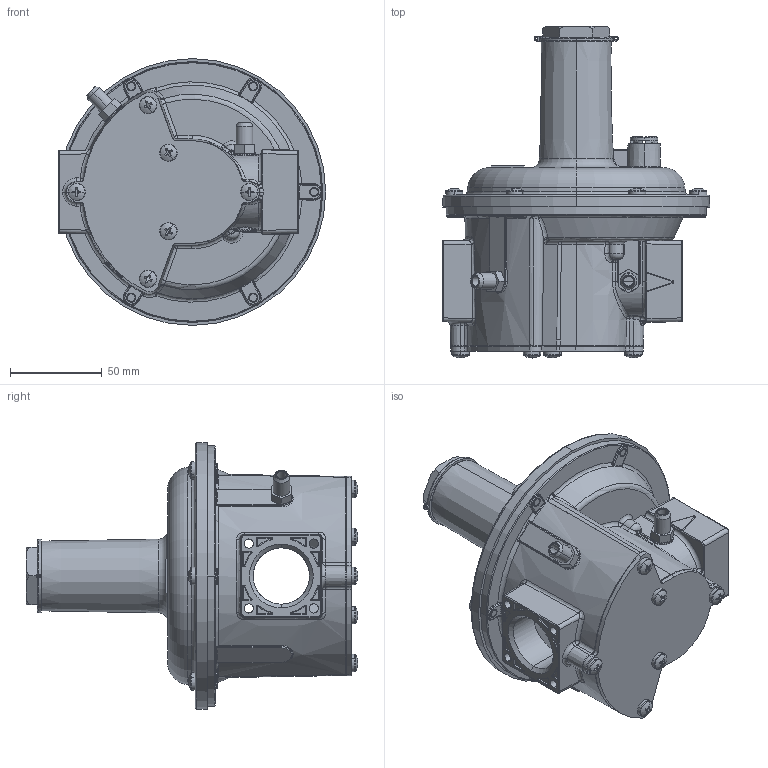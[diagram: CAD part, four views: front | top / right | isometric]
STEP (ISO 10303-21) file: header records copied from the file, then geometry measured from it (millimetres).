
FILE_DESCRIPTION (( 'STEP AP203' ), '1' );
FILE_NAME ('009.0222.101-4.STEP', '2014-01-13T15:05:37', ( 'Adminwatts' ), ( 'Microsoft' ), 'SwSTEP 2.0', 'SolidWorks 2012', '' );
FILE_SCHEMA (( 'CONFIG_CONTROL_DESIGN' ));
Length unit declared in the file: millimetre
Products named in the file (1): 009.0222.101-4
Bounding box: 145.72 x 180.88 x 145.44 mm (x, y, z)
Surface area: 99679 mm2 (no closed solid volume)
Topology: 0 solids, 30 shells, 1147 faces, 3503 edges, 2270 vertices
Faces by surface type: plane 425, cylinder 284, bspline 150, torus 141, cone 79, sphere 68
Entity records: 45123 total; most frequent: CARTESIAN_POINT 15259, DIRECTION 6352, ORIENTED_EDGE 5816, EDGE_CURVE 3461, AXIS2_PLACEMENT_3D 2500, VERTEX_POINT 2262, CIRCLE 1502, VECTOR 1352
